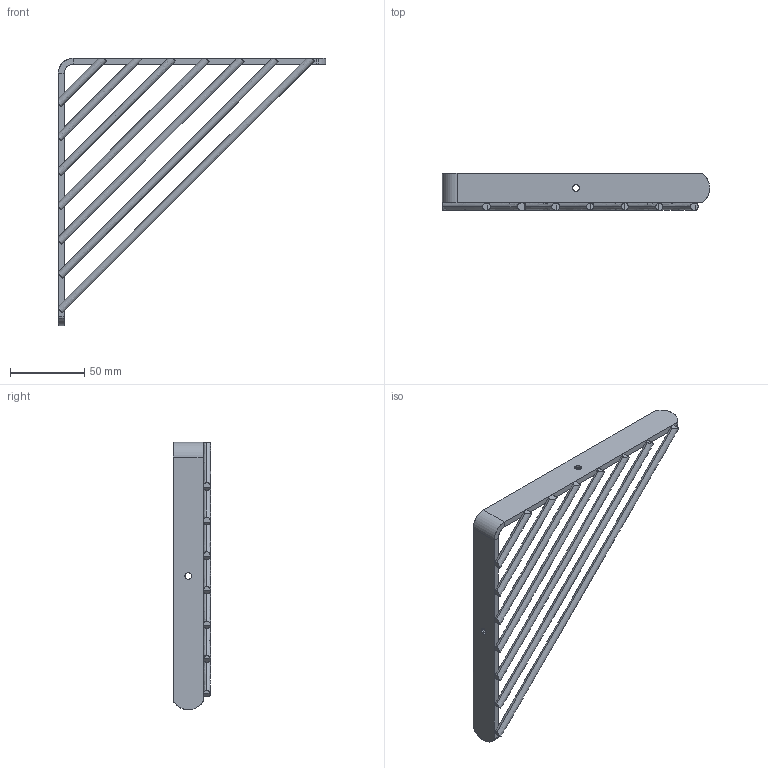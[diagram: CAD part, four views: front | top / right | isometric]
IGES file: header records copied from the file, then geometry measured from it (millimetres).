
Start section: SolidWorks IGES file using analytic representation for surfaces
Global section: file name: D:\Weijuan\Desktop\290__30.IGS; native system: SolidWorks 2010; preprocessor: SolidWorks 2010; author: weijuan; date: 151112.151811; units: inch
Bounding box: 180 x 25 x 180 mm (x, y, z)
Surface area: 32668.4 mm2 (no closed solid volume)
Topology: 0 solids, 0 shells, 73 faces, 731 edges, 731 vertices
Faces by surface type: bspline 38, revolution 35
